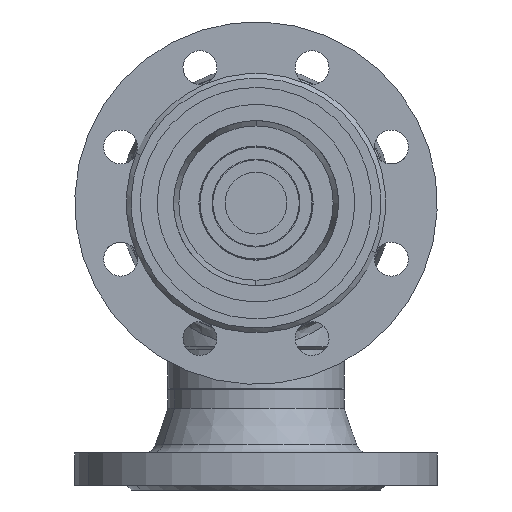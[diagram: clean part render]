
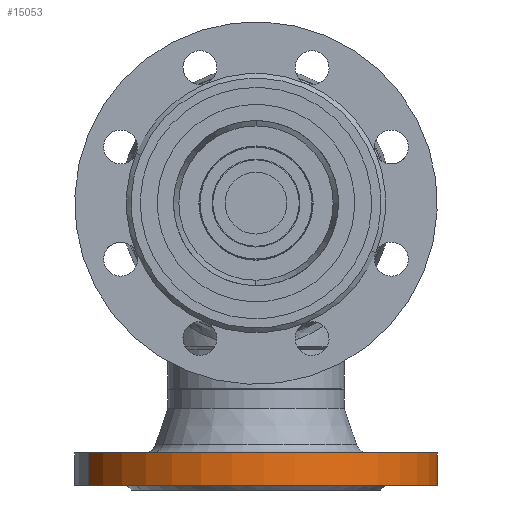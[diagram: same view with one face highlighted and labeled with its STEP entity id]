
A CAD part, front view. The second image highlights one B-rep face of the part: STEP entity #15053.
In plain terms, the highlighted cylindrical face has radius 117.5 mm (diameter 235 mm), a partial arc.
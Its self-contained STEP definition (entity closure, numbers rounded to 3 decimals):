
#802 = VERTEX_POINT ( 'NONE', #3244 ) ;
#1338 = ORIENTED_EDGE ( 'NONE', *, *, #15442, .F. ) ;
#1860 = ORIENTED_EDGE ( 'NONE', *, *, #20343, .T. ) ;
#1922 = VERTEX_POINT ( 'NONE', #7226 ) ;
#2200 = EDGE_CURVE ( 'NONE', #14036, #1922, #7394, .T. ) ;
#2657 = EDGE_CURVE ( 'NONE', #14036, #14258, #7658, .T. ) ;
#3244 = CARTESIAN_POINT ( 'NONE',  ( -117.5, 24., 0. ) ) ;
#20343 = EDGE_CURVE ( 'NONE', #14258, #802, #13110, .T. ) ;
#7226 = CARTESIAN_POINT ( 'NONE',  ( 117.5, 24., 0. ) ) ;
#7394 = LINE ( 'NONE', #7395, #7396 ) ;
#7395 = CARTESIAN_POINT ( 'NONE',  ( 117.5, 75., 0. ) ) ;
#7396 = VECTOR ( 'NONE', #7397, 1000. ) ;
#7397 = DIRECTION ( 'NONE',  ( 0., 1., 0. ) ) ;
#7658 = CIRCLE ( 'NONE', #7659, 117.5 ) ;
#7659 = AXIS2_PLACEMENT_3D ( 'NONE', #7660, #7661, #7662 ) ;
#7660 = CARTESIAN_POINT ( 'NONE',  ( 0., 3., 0. ) ) ;
#7661 = DIRECTION ( 'NONE',  ( 0., 1., 0. ) ) ;
#7662 = DIRECTION ( 'NONE',  ( -1., 0., 0. ) ) ;
#9863 = CARTESIAN_POINT ( 'NONE',  ( 117.5, 3., 0. ) ) ;
#10127 = CARTESIAN_POINT ( 'NONE',  ( -117.5, 3., 0. ) ) ;
#10962 = FACE_OUTER_BOUND ( 'NONE', #14811, .T. ) ;
#10963 = CYLINDRICAL_SURFACE ( 'NONE', #10964, 117.5 ) ;
#10964 = AXIS2_PLACEMENT_3D ( 'NONE', #10965, #10966, #10967 ) ;
#10965 = CARTESIAN_POINT ( 'NONE',  ( 0., 75., 0. ) ) ;
#10966 = DIRECTION ( 'NONE',  ( 0., 1., 0. ) ) ;
#10967 = DIRECTION ( 'NONE',  ( -1., 0., 0. ) ) ;
#11271 = CIRCLE ( 'NONE', #11272, 117.5 ) ;
#11272 = AXIS2_PLACEMENT_3D ( 'NONE', #11276, #11277, #11278 ) ;
#11276 = CARTESIAN_POINT ( 'NONE',  ( 0., 24., 0. ) ) ;
#11277 = DIRECTION ( 'NONE',  ( 0., 1., 0. ) ) ;
#11278 = DIRECTION ( 'NONE',  ( -1., 0., 0. ) ) ;
#13110 = LINE ( 'NONE', #13111, #13112 ) ;
#13111 = CARTESIAN_POINT ( 'NONE',  ( -117.5, 75., 0. ) ) ;
#13112 = VECTOR ( 'NONE', #13113, 1000. ) ;
#13113 = DIRECTION ( 'NONE',  ( 0., 1., 0. ) ) ;
#13772 = ORIENTED_EDGE ( 'NONE', *, *, #2657, .T. ) ;
#14036 = VERTEX_POINT ( 'NONE', #9863 ) ;
#14258 = VERTEX_POINT ( 'NONE', #10127 ) ;
#14298 = ORIENTED_EDGE ( 'NONE', *, *, #2200, .F. ) ;
#14811 = EDGE_LOOP ( 'NONE', ( #14298, #13772, #1860, #1338 ) ) ;
#15053 = ADVANCED_FACE ( 'NONE', ( #10962 ), #10963, .T. ) ;
#15442 = EDGE_CURVE ( 'NONE', #1922, #802, #11271, .T. ) ;
